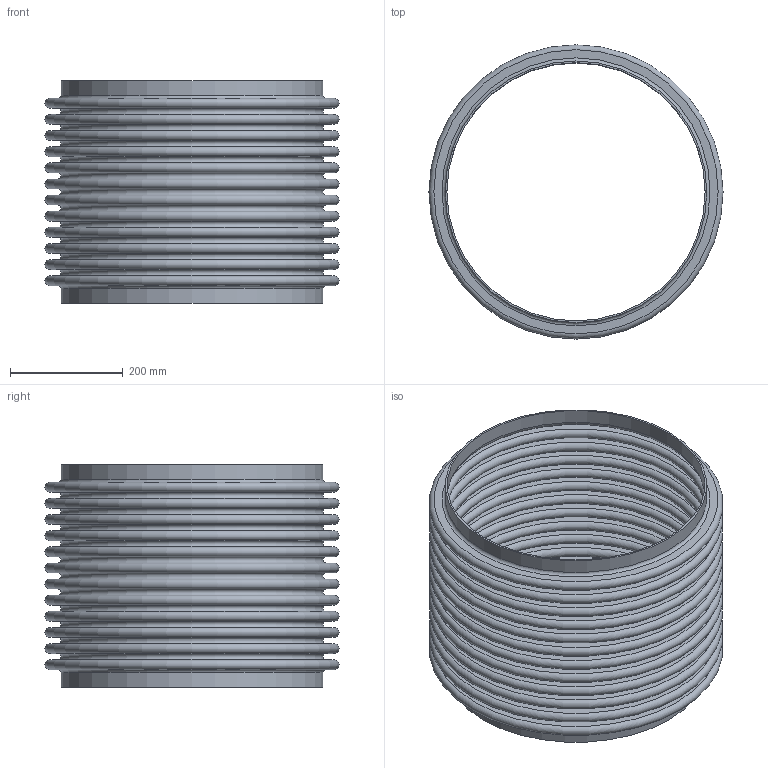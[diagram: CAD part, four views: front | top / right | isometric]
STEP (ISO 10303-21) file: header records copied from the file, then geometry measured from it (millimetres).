
FILE_DESCRIPTION(/* description */ ('STOCK BELLOWS: U.S-18-12-300L, 18.000 I.D., 20.500 O.D., 2 PLY, 16 GA (0.060 THICK), 12 CONS., 1.125 PITCH, 1.000 TANGENT. '),/* implementation_level */ '2;1');
FILE_NAME(/* name */ 'STOCK BELLOW - US-18-12-300L.stp',/* time_stamp */ '2026-07-21T13:30:58-05:00',/* author */ ('KennethB'),/* organization */ (''),/* preprocessor_version */ 'ST-DEVELOPER v20.1',/* originating_system */ 'Autodesk Inventor 2026',/* authorisation */ '');
FILE_SCHEMA (('AUTOMOTIVE_DESIGN { 1 0 10303 214 3 1 1 }'));
Length unit declared in the file: inch
Products named in the file (1): STOCK BELLOW - US-18-12-300L
Bounding box: 520.7 x 520.7 x 393.7 mm (x, y, z)
Volume: 4365438.2 mm3; surface area: 2890903.6 mm2
Topology: 3 solids, 3 shells, 108 faces, 162 edges, 109 vertices
Faces by surface type: plane 54, torus 50, cylinder 4
Full cylindrical faces by diameter (mm): 457.2 x2, 463.296 x2
Entity records: 2550 total; most frequent: DIRECTION 538, CARTESIAN_POINT 380, ORIENTED_EDGE 324, AXIS2_PLACEMENT_3D 267, EDGE_LOOP 162, EDGE_CURVE 162, CIRCLE 158, FACE_OUTER_BOUND 108
